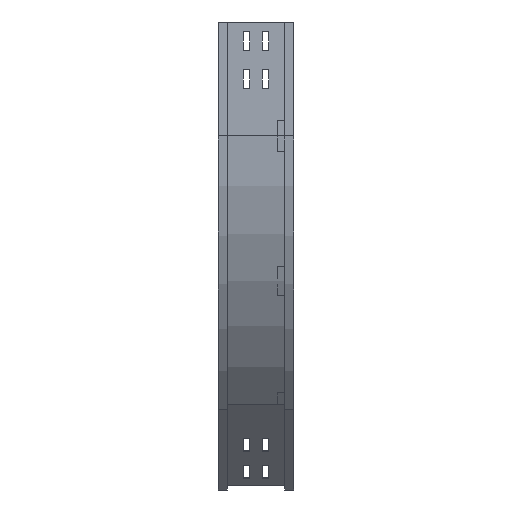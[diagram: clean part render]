
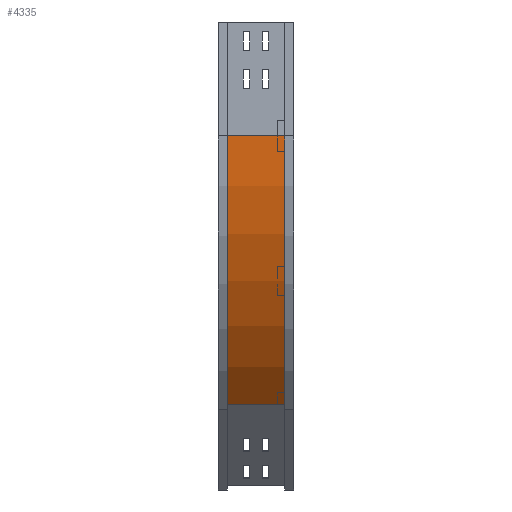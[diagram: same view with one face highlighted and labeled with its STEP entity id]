
A CAD part, left-side view. The second image highlights one B-rep face of the part: STEP entity #4335.
In plain terms, the highlighted cylindrical face has radius 500 mm (diameter 1000 mm), a partial arc.
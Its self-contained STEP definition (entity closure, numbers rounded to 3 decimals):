
#44 = DIRECTION ( 'NONE',  ( -1., 0., 0. ) ) ;
#54 = CARTESIAN_POINT ( 'NONE',  ( 155.447, 12., -503.553 ) ) ;
#188 = VERTEX_POINT ( 'NONE', #1613 ) ;
#536 = DIRECTION ( 'NONE',  ( 0., -1., 0. ) ) ;
#721 = VECTOR ( 'NONE', #4017, 1000. ) ;
#909 = CARTESIAN_POINT ( 'NONE',  ( 155.447, 12., -503.553 ) ) ;
#910 = DIRECTION ( 'NONE',  ( 0., -1., 0. ) ) ;
#920 = CIRCLE ( 'NONE', #4197, 500. ) ;
#1281 = VERTEX_POINT ( 'NONE', #2480 ) ;
#1436 = EDGE_LOOP ( 'NONE', ( #1506, #3684, #2467, #2605 ) ) ;
#1485 = LINE ( 'NONE', #1844, #3417 ) ;
#1506 = ORIENTED_EDGE ( 'NONE', *, *, #1536, .F. ) ;
#1536 = EDGE_CURVE ( 'NONE', #188, #1991, #920, .T. ) ;
#1593 = CARTESIAN_POINT ( 'NONE',  ( 509., 88., -150. ) ) ;
#1613 = CARTESIAN_POINT ( 'NONE',  ( 9., 12., -150. ) ) ;
#1844 = CARTESIAN_POINT ( 'NONE',  ( 9., 12., -150. ) ) ;
#1991 = VERTEX_POINT ( 'NONE', #54 ) ;
#2053 = VERTEX_POINT ( 'NONE', #4023 ) ;
#2288 = DIRECTION ( 'NONE',  ( -1., 0., 0. ) ) ;
#2309 = FACE_OUTER_BOUND ( 'NONE', #1436, .T. ) ;
#2313 = EDGE_CURVE ( 'NONE', #2053, #1991, #2582, .T. ) ;
#2423 = AXIS2_PLACEMENT_3D ( 'NONE', #3008, #536, #4394 ) ;
#2467 = ORIENTED_EDGE ( 'NONE', *, *, #4290, .T. ) ;
#2480 = CARTESIAN_POINT ( 'NONE',  ( 9., 88., -150. ) ) ;
#2582 = LINE ( 'NONE', #909, #721 ) ;
#2605 = ORIENTED_EDGE ( 'NONE', *, *, #2313, .T. ) ;
#3008 = CARTESIAN_POINT ( 'NONE',  ( 509., 0., -150. ) ) ;
#3278 = DIRECTION ( 'NONE',  ( 0., -1., 0. ) ) ;
#3417 = VECTOR ( 'NONE', #3278, 1000. ) ;
#3427 = EDGE_CURVE ( 'NONE', #1281, #188, #1485, .T. ) ;
#3647 = DIRECTION ( 'NONE',  ( 0., -1., 0. ) ) ;
#3684 = ORIENTED_EDGE ( 'NONE', *, *, #3427, .F. ) ;
#3721 = CYLINDRICAL_SURFACE ( 'NONE', #2423, 500. ) ;
#3941 = CIRCLE ( 'NONE', #4371, 500. ) ;
#4017 = DIRECTION ( 'NONE',  ( 0., -1., 0. ) ) ;
#4023 = CARTESIAN_POINT ( 'NONE',  ( 155.447, 88., -503.553 ) ) ;
#4039 = CARTESIAN_POINT ( 'NONE',  ( 509., 12., -150. ) ) ;
#4197 = AXIS2_PLACEMENT_3D ( 'NONE', #4039, #910, #44 ) ;
#4290 = EDGE_CURVE ( 'NONE', #1281, #2053, #3941, .T. ) ;
#4335 = ADVANCED_FACE ( 'NONE', ( #2309 ), #3721, .T. ) ;
#4371 = AXIS2_PLACEMENT_3D ( 'NONE', #1593, #3647, #2288 ) ;
#4394 = DIRECTION ( 'NONE',  ( 0., 0., -1. ) ) ;
